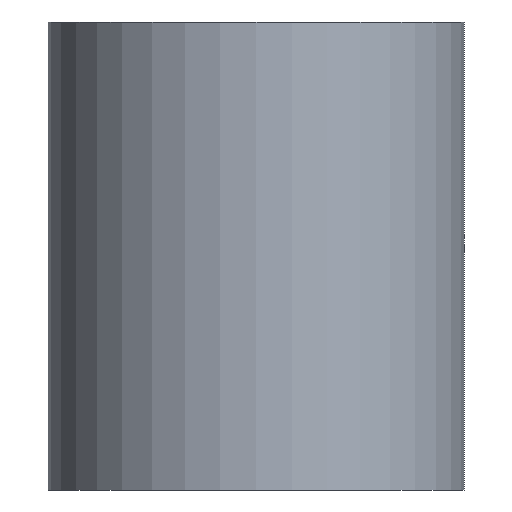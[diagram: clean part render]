
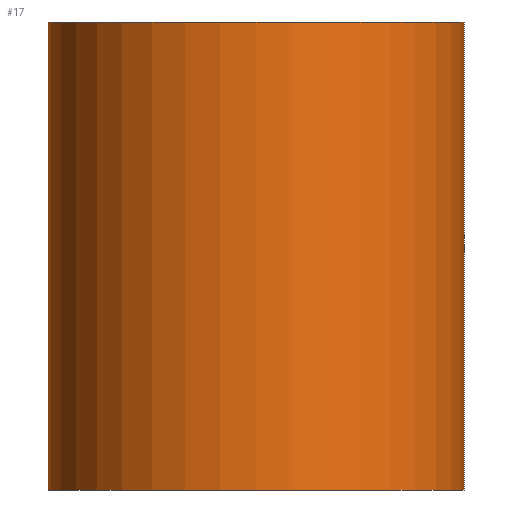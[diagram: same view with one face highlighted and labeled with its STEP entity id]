
A CAD part, front view. The second image highlights one B-rep face of the part: STEP entity #17.
In plain terms, the highlighted cylindrical face has radius 40 mm (diameter 80 mm), a full revolution.
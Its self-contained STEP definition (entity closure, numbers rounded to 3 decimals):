
#17 = ADVANCED_FACE('',(#18),#31,.T.);
#18 = FACE_BOUND('',#19,.T.);
#19 = EDGE_LOOP('',(#20,#54,#77,#104));
#20 = ORIENTED_EDGE('',*,*,#21,.F.);
#21 = EDGE_CURVE('',#22,#22,#24,.T.);
#22 = VERTEX_POINT('',#23);
#23 = CARTESIAN_POINT('',(40.,0.,90.));
#24 = SURFACE_CURVE('',#25,(#30,#42),.PCURVE_S1.);
#25 = CIRCLE('',#26,40.);
#26 = AXIS2_PLACEMENT_3D('',#27,#28,#29);
#27 = CARTESIAN_POINT('',(0.,0.,90.));
#28 = DIRECTION('',(0.,0.,1.));
#29 = DIRECTION('',(1.,0.,-0.));
#30 = PCURVE('',#31,#36);
#31 = CYLINDRICAL_SURFACE('',#32,40.);
#32 = AXIS2_PLACEMENT_3D('',#33,#34,#35);
#33 = CARTESIAN_POINT('',(0.,0.,0.));
#34 = DIRECTION('',(0.,0.,1.));
#35 = DIRECTION('',(1.,0.,-0.));
#36 = DEFINITIONAL_REPRESENTATION('',(#37),#41);
#37 = LINE('',#38,#39);
#38 = CARTESIAN_POINT('',(0.,90.));
#39 = VECTOR('',#40,1.);
#40 = DIRECTION('',(1.,0.));
#41 = ( GEOMETRIC_REPRESENTATION_CONTEXT(2) 
PARAMETRIC_REPRESENTATION_CONTEXT() REPRESENTATION_CONTEXT('2D SPACE',''
  ) );
#42 = PCURVE('',#43,#48);
#43 = PLANE('',#44);
#44 = AXIS2_PLACEMENT_3D('',#45,#46,#47);
#45 = CARTESIAN_POINT('',(0.,0.,90.));
#46 = DIRECTION('',(0.,0.,1.));
#47 = DIRECTION('',(1.,0.,-0.));
#48 = DEFINITIONAL_REPRESENTATION('',(#49),#53);
#49 = CIRCLE('',#50,40.);
#50 = AXIS2_PLACEMENT_2D('',#51,#52);
#51 = CARTESIAN_POINT('',(0.,0.));
#52 = DIRECTION('',(1.,0.));
#53 = ( GEOMETRIC_REPRESENTATION_CONTEXT(2) 
PARAMETRIC_REPRESENTATION_CONTEXT() REPRESENTATION_CONTEXT('2D SPACE',''
  ) );
#54 = ORIENTED_EDGE('',*,*,#55,.F.);
#55 = EDGE_CURVE('',#56,#22,#58,.T.);
#56 = VERTEX_POINT('',#57);
#57 = CARTESIAN_POINT('',(40.,0.,0.));
#58 = SEAM_CURVE('',#59,(#63,#70),.PCURVE_S1.);
#59 = LINE('',#60,#61);
#60 = CARTESIAN_POINT('',(40.,0.,0.));
#61 = VECTOR('',#62,1.);
#62 = DIRECTION('',(0.,0.,1.));
#63 = PCURVE('',#31,#64);
#64 = DEFINITIONAL_REPRESENTATION('',(#65),#69);
#65 = LINE('',#66,#67);
#66 = CARTESIAN_POINT('',(6.283,-0.));
#67 = VECTOR('',#68,1.);
#68 = DIRECTION('',(0.,1.));
#69 = ( GEOMETRIC_REPRESENTATION_CONTEXT(2) 
PARAMETRIC_REPRESENTATION_CONTEXT() REPRESENTATION_CONTEXT('2D SPACE',''
  ) );
#70 = PCURVE('',#31,#71);
#71 = DEFINITIONAL_REPRESENTATION('',(#72),#76);
#72 = LINE('',#73,#74);
#73 = CARTESIAN_POINT('',(0.,-0.));
#74 = VECTOR('',#75,1.);
#75 = DIRECTION('',(0.,1.));
#76 = ( GEOMETRIC_REPRESENTATION_CONTEXT(2) 
PARAMETRIC_REPRESENTATION_CONTEXT() REPRESENTATION_CONTEXT('2D SPACE',''
  ) );
#77 = ORIENTED_EDGE('',*,*,#78,.T.);
#78 = EDGE_CURVE('',#56,#56,#79,.T.);
#79 = SURFACE_CURVE('',#80,(#85,#92),.PCURVE_S1.);
#80 = CIRCLE('',#81,40.);
#81 = AXIS2_PLACEMENT_3D('',#82,#83,#84);
#82 = CARTESIAN_POINT('',(0.,0.,0.));
#83 = DIRECTION('',(0.,0.,1.));
#84 = DIRECTION('',(1.,0.,-0.));
#85 = PCURVE('',#31,#86);
#86 = DEFINITIONAL_REPRESENTATION('',(#87),#91);
#87 = LINE('',#88,#89);
#88 = CARTESIAN_POINT('',(0.,0.));
#89 = VECTOR('',#90,1.);
#90 = DIRECTION('',(1.,0.));
#91 = ( GEOMETRIC_REPRESENTATION_CONTEXT(2) 
PARAMETRIC_REPRESENTATION_CONTEXT() REPRESENTATION_CONTEXT('2D SPACE',''
  ) );
#92 = PCURVE('',#93,#98);
#93 = PLANE('',#94);
#94 = AXIS2_PLACEMENT_3D('',#95,#96,#97);
#95 = CARTESIAN_POINT('',(0.,0.,0.));
#96 = DIRECTION('',(0.,0.,1.));
#97 = DIRECTION('',(1.,0.,-0.));
#98 = DEFINITIONAL_REPRESENTATION('',(#99),#103);
#99 = CIRCLE('',#100,40.);
#100 = AXIS2_PLACEMENT_2D('',#101,#102);
#101 = CARTESIAN_POINT('',(0.,0.));
#102 = DIRECTION('',(1.,0.));
#103 = ( GEOMETRIC_REPRESENTATION_CONTEXT(2) 
PARAMETRIC_REPRESENTATION_CONTEXT() REPRESENTATION_CONTEXT('2D SPACE',''
  ) );
#104 = ORIENTED_EDGE('',*,*,#55,.T.);
